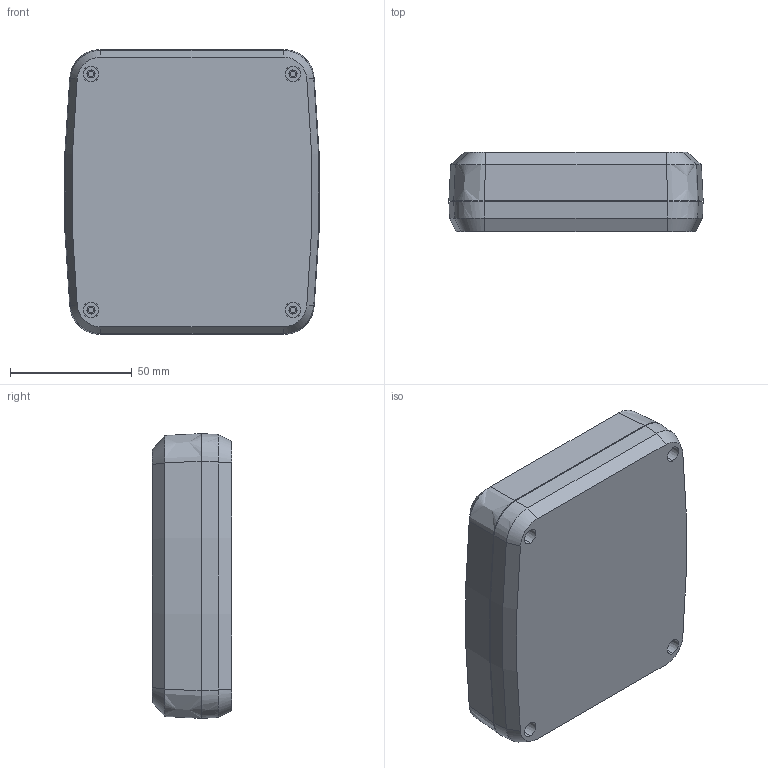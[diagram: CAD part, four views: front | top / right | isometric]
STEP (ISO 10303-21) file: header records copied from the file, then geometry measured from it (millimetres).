
FILE_DESCRIPTION (( 'STEP AP203' ), '1' );
FILE_NAME ('HH-047.STEP', '2016-03-09T06:33:53', ( 'admin' ), ( 'Hewlett-Packard Company' ), 'SwSTEP 2.0', 'SolidWorks 2014', '' );
FILE_SCHEMA (( 'CONFIG_CONTROL_DESIGN' ));
Length unit declared in the file: millimetre
Products named in the file (3): HH-047; HH-047-P-1; HH-047-P-2
Assembly tree (2 placements, depth 2):
  HH-047
    HH-047-P-1
    HH-047-P-2
Bounding box: 104.49 x 32.6 x 117 mm (x, y, z)
Volume: 75058.4 mm3; surface area: 73880.2 mm2
Topology: 2 solids, 2 shells, 225 faces, 562 edges, 364 vertices
Faces by surface type: cone 68, plane 67, bspline 66, cylinder 24
Entity records: 11242 total; most frequent: CARTESIAN_POINT 6051, ORIENTED_EDGE 1124, DIRECTION 842, EDGE_CURVE 562, VERTEX_POINT 364, AXIS2_PLACEMENT_3D 348, EDGE_LOOP 256, ADVANCED_FACE 225
